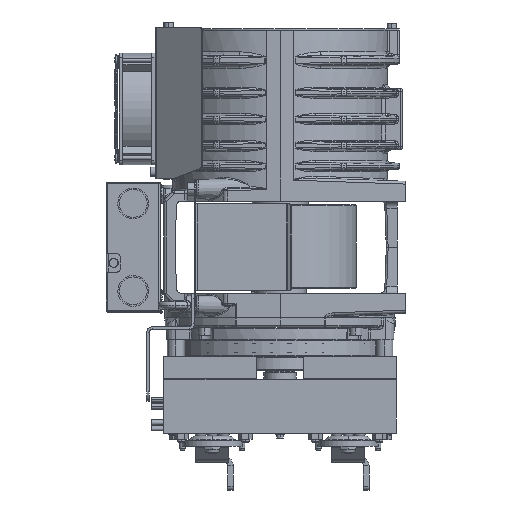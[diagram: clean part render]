
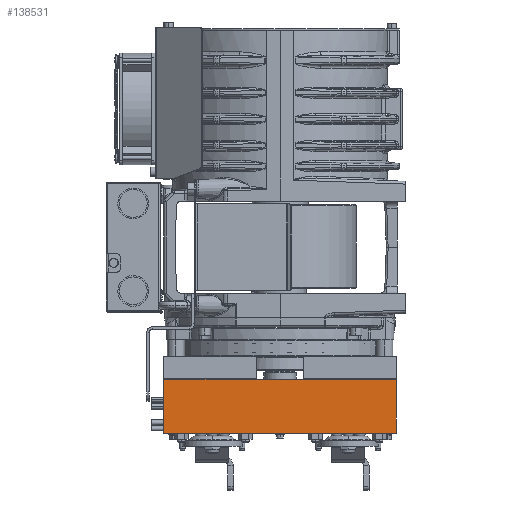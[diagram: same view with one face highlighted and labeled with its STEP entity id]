
A CAD part, left-side view. The second image highlights one B-rep face of the part: STEP entity #138531.
In plain terms, the highlighted planar face has unit normal (-1, 0, 0).
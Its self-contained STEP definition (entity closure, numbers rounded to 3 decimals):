
#134245=DIRECTION('',(0.,0.,-1.));
#134246=VECTOR('',#134245,58.);
#134247=CARTESIAN_POINT('',(-80.,125.,-142.05));
#134248=LINE('',#134247,#134246);
#134405=DIRECTION('',(0.,-1.,0.));
#134406=VECTOR('',#134405,250.);
#134407=CARTESIAN_POINT('',(-80.,125.,-200.05));
#134408=LINE('',#134407,#134406);
#134818=DIRECTION('',(0.,-1.,0.));
#134819=VECTOR('',#134818,250.);
#134820=CARTESIAN_POINT('',(-80.,125.,-142.05));
#134821=LINE('',#134820,#134819);
#134822=DIRECTION('',(0.,0.,-1.));
#134823=VECTOR('',#134822,58.);
#134824=CARTESIAN_POINT('',(-80.,-125.,-142.05));
#134825=LINE('',#134824,#134823);
#136849=CARTESIAN_POINT('',(-80.,-125.,-142.05));
#136850=VERTEX_POINT('',#136849);
#136851=CARTESIAN_POINT('',(-80.,125.,-142.05));
#136852=VERTEX_POINT('',#136851);
#136891=CARTESIAN_POINT('',(-80.,125.,-200.05));
#136892=VERTEX_POINT('',#136891);
#136895=CARTESIAN_POINT('',(-80.,-125.,-200.05));
#136896=VERTEX_POINT('',#136895);
#138519=CARTESIAN_POINT('',(-80.,125.,-142.05));
#138520=DIRECTION('',(-1.,0.,0.));
#138521=DIRECTION('',(0.,-1.,0.));
#138522=AXIS2_PLACEMENT_3D('',#138519,#138520,#138521);
#138523=PLANE('',#138522);
#138524=ORIENTED_EDGE('',*,*,#138050,.T.);
#138526=ORIENTED_EDGE('',*,*,#138525,.T.);
#138527=ORIENTED_EDGE('',*,*,#138102,.F.);
#138528=ORIENTED_EDGE('',*,*,#137991,.F.);
#138529=EDGE_LOOP('',(#138524,#138526,#138527,#138528));
#138530=FACE_OUTER_BOUND('',#138529,.F.);
#138531=ADVANCED_FACE('',(#138530),#138523,.T.);
#137991=EDGE_CURVE('',#136852,#136892,#134248,.T.);
#138050=EDGE_CURVE('',#136852,#136850,#134821,.T.);
#138102=EDGE_CURVE('',#136892,#136896,#134408,.T.);
#138525=EDGE_CURVE('',#136850,#136896,#134825,.T.);
